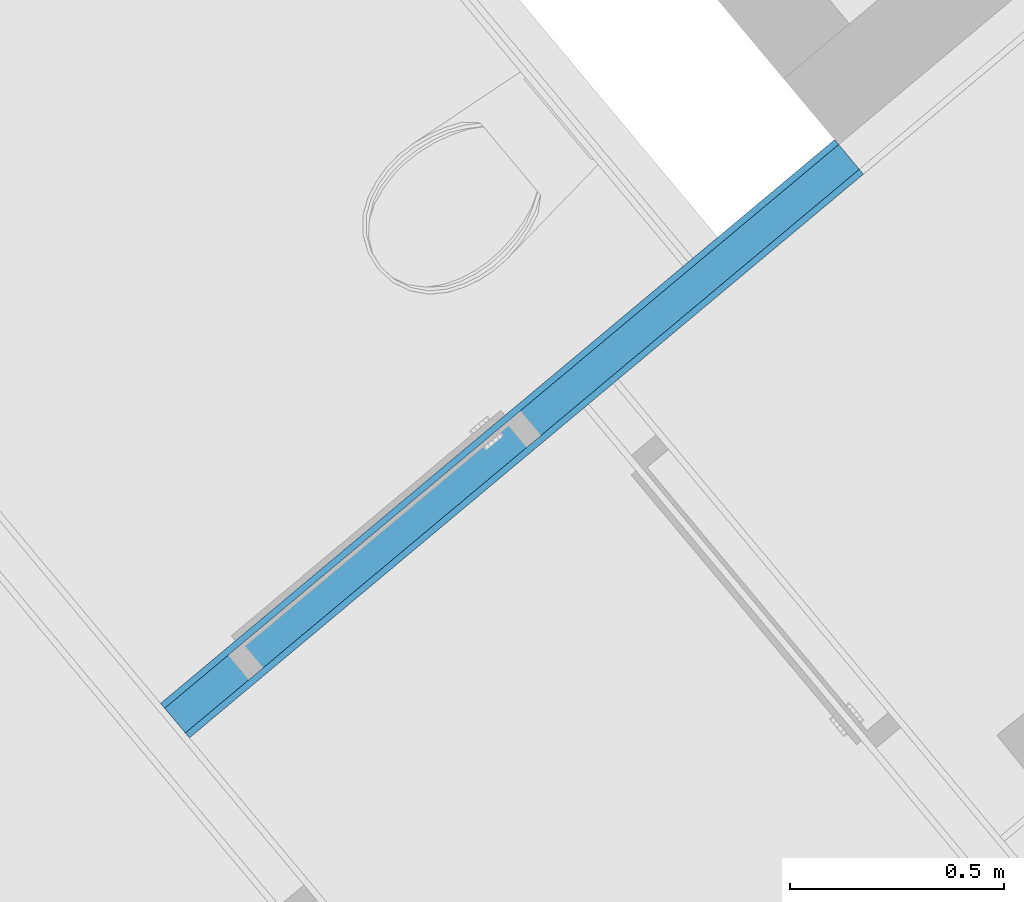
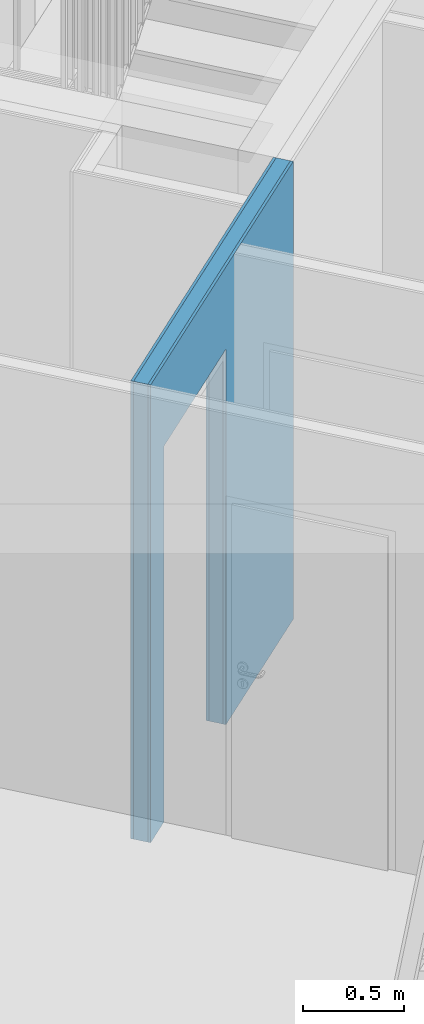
# One storey, part 3 of 75: 3 building element parts, 1 opening, 1 element without a shape of its own.
"""IFC4 building model written with IfcOpenShell, lengths in metres."""

from ifc_helpers import new_model, entity, si_unit, converted_unit, derived_unit, direction, frame, origin_with_axes, place, context, subcontext, project, spatial, polygons, material, type_object, element, aggregate, save


model = new_model("IFC4")

# Units and contexts
model_context = context("Model", 3, precision=1e-05, world=origin_with_axes(), true_north=direction((0.0, 1.0)))
body_context = subcontext(model_context, "Body", "Model", "MODEL_VIEW")
ifc_project = project(units=[si_unit("LENGTHUNIT", "METRE"), si_unit("AREAUNIT", "SQUARE_METRE"), si_unit("VOLUMEUNIT", "CUBIC_METRE"), converted_unit("PLANEANGLEUNIT", "DEGREE", entity("IfcPlaneAngleMeasure", 0.0174532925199), si_unit("PLANEANGLEUNIT", "RADIAN"), dimensions=[0, 0, 0, 0, 0, 0, 0]), converted_unit("TIMEUNIT", "Year", entity("IfcTimeMeasure", 31556926.0), si_unit("TIMEUNIT", "SECOND"), dimensions=[0, 0, 1, 0, 0, 0, 0]), si_unit("MASSUNIT", "GRAM", prefix="KILO"), si_unit("THERMODYNAMICTEMPERATUREUNIT", "DEGREE_CELSIUS"), si_unit("LUMINOUSINTENSITYUNIT", "LUMEN"), si_unit("ENERGYUNIT", "JOULE", prefix="MEGA"), derived_unit("THERMALCONDUCTANCEUNIT", [(si_unit("POWERUNIT", "WATT"), 1), (si_unit("LENGTHUNIT", "METRE"), -1), (si_unit("THERMODYNAMICTEMPERATUREUNIT", "KELVIN"), -1)]), derived_unit("SPECIFICHEATCAPACITYUNIT", [(si_unit("ENERGYUNIT", "JOULE"), 1), (si_unit("MASSUNIT", "GRAM", prefix="KILO"), -1), (si_unit("THERMODYNAMICTEMPERATUREUNIT", "KELVIN"), -1)]), derived_unit("MASSDENSITYUNIT", [(si_unit("MASSUNIT", "GRAM", prefix="KILO"), 1), (si_unit("VOLUMEUNIT", "CUBIC_METRE"), -1)])], contexts=[model_context])

# Site, building, storey
site_placement = place(None, frame((-0.00153261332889, -0.00661245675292, 0.0), z_axis=(0.0, 0.0, 1.0), x_axis=(1.0, 0.0, 0.0)))
site = spatial("IfcSite", under=ifc_project, at=site_placement, Name="Gelände", CompositionType="ELEMENT")
building_placement = place(site_placement, origin_with_axes())
building = spatial("IfcBuilding", under=site, at=building_placement, Name="Gebäude", CompositionType="ELEMENT")
storey_placement = place(building_placement, frame((0.0, 0.0, -0.22), z_axis=(0.0, 0.0, 1.0), x_axis=(1.0, 0.0, 0.0)))
storey = spatial("IfcBuildingStorey", under=building, at=storey_placement, Name="EG", CompositionType="ELEMENT", Elevation=-0.22)

# Wall, opening, building element parts
wall_type = type_object("IfcWallType", Name="IW LB 01 Leichtbautrennwand einfach 10,5 cm 105", PredefinedType="NOTDEFINED")
wall_placement = place(storey_placement, frame((-3.8779013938, 18.9137265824, 0.0), z_axis=(0.0, 0.0, 1.0), x_axis=(0.767062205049, 0.641572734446, 0.0)))
wall = element("IfcWall", 1, at=wall_placement, inside=storey, type_object=wall_type, Name="Wand-012", PredefinedType="NOTDEFINED")
opening_placement = place(wall_placement, frame((0.742573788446, 0.0, 0.22), z_axis=(0.0, 0.0, 1.0), x_axis=(1.0, 0.0, 0.0)))
element("IfcOpeningElement", 2, at=opening_placement, cuts=wall, Name="Tür-016", context=body_context, identifier="Reference", shape_type="Tessellation", body=[
    polygons([(-0.445, -1.16650854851, 2.045), (-0.445, -1.16650854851, -0.22), (0.445, -1.16650854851, -0.22), (0.445, -1.16650854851, 2.045), (-0.445, 1.06150854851, 2.045), (-0.445, 1.06150854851, -0.22), (0.445, 1.06150854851, -0.22), (0.445, 1.06150854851, 2.045)], [[[1, 2, 3, 4]], [[5, 6, 2, 1]], [[6, 7, 3, 2]], [[7, 8, 4, 3]], [[8, 5, 1, 4]], [[7, 6, 5, 8]]], closed=True),
])
ifc_material_1 = material(Name="Gipskarton")
building_element_part_1_placement = place(wall_placement, origin_with_axes())
building_element_part_1 = element("IfcBuildingElementPart", 3, at=building_element_part_1_placement, material=ifc_material_1, Name="Gipskarton", PredefinedType="NOTDEFINED", context=body_context, shape_type="Tessellation", body=[
    polygons([(0.297573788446, -0.015, 0.22), (0.297573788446, -0.015, 2.265), (1.18757378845, -0.015, 2.265), (1.18757378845, -0.015, 0.22), (1.18757378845, -0.015, 0.0), (2.15495244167, -0.015, 0.0), (2.15495244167, -0.015, 2.76), (0.104992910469, -0.015, 2.76), (0.104992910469, -0.015, 0.0), (0.297573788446, -0.015, 0.0), (0.297573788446, 3.45460549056e-09, 0.22), (0.297573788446, -8.58950244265e-10, 2.265), (1.18757378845, -8.58953796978e-10, 2.265), (1.18757378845, -8.58946691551e-10, 0.22), (1.18757378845, -8.58950244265e-10, 0.0), (2.15495244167, 0.0, 0.0), (2.15495244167, 0.0, 2.76), (1.79937701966, 1.96622167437e-08, 2.76), (0.105000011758, 0.0, 2.76), (0.105000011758, 0.0, 0.0), (0.297573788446, 3.45460549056e-09, 0.0)], [[[1, 2, 3, 4, 5, 6, 7, 8, 9, 10]], [[2, 1, 11, 12]], [[3, 2, 12, 13]], [[4, 3, 13, 14]], [[4, 14, 15, 5]], [[15, 16, 6, 5]], [[17, 7, 6, 16]], [[7, 17, 18, 19, 8]], [[19, 20, 9, 8]], [[10, 9, 20, 21]], [[11, 1, 10, 21]], [[12, 11, 21, 20, 19, 18, 17, 16, 15, 14, 13]]], closed=True),
])
ifc_material_2 = material(Name="Mineralwolle weich")
building_element_part_2_placement = place(wall_placement, origin_with_axes())
building_element_part_2 = element("IfcBuildingElementPart", 4, at=building_element_part_2_placement, material=ifc_material_2, Name="Mineralwolle weich", PredefinedType="NOTDEFINED", context=body_context, shape_type="Tessellation", body=[
    polygons([(0.297573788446, -0.09, 0.22), (0.297573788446, -0.09, 2.265), (1.18757378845, -0.09, 2.265), (1.18757378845, -0.09, 0.22), (1.18757378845, -0.09, 0.0), (2.15495244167, -0.09, 0.0), (2.15495244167, -0.09, 2.76), (0.104957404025, -0.09, 2.76), (0.104957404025, -0.09, 0.0), (0.297573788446, -0.09, 0.0), (0.297573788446, -0.015, 0.22), (0.297573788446, -0.015, 2.265), (1.18757378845, -0.015, 2.265), (1.18757378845, -0.015, 0.22), (1.18757378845, -0.015, 0.0), (2.15495244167, -0.015, 0.0), (2.15494534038, -0.0149999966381, 2.76), (0.104992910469, -0.015, 2.76), (0.104992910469, -0.015, 0.0), (0.297573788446, -0.015, 0.0)], [[[1, 2, 3, 4, 5, 6, 7, 8, 9, 10]], [[2, 1, 11, 12]], [[3, 2, 12, 13]], [[4, 3, 13, 14]], [[4, 14, 15, 5]], [[15, 16, 6, 5]], [[7, 6, 16, 17]], [[18, 8, 7, 17]], [[18, 19, 9, 8]], [[10, 9, 19, 20]], [[11, 1, 10, 20]], [[12, 11, 20, 19, 18, 17, 16, 15, 14, 13]]], closed=True),
])
building_element_part_3_placement = place(wall_placement, origin_with_axes())
building_element_part_3 = element("IfcBuildingElementPart", 5, at=building_element_part_3_placement, material=ifc_material_1, Name="Gipskarton", PredefinedType="NOTDEFINED", context=body_context, shape_type="Tessellation", body=[
    polygons([(0.297573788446, -0.105, 0.22), (0.297573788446, -0.105, 2.265), (1.18757378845, -0.105, 2.265), (1.18757378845, -0.105, 0.22), (1.18757378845, -0.105, 0.0), (2.15495244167, -0.105, 0.0), (2.15495244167, -0.105, 2.76), (0.104950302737, -0.105, 2.76), (0.104950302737, -0.105, 0.0), (0.297573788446, -0.105, 0.0), (0.297573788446, -0.09, 0.22), (0.297573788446, -0.09, 2.265), (1.18757378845, -0.09, 2.265), (1.18757378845, -0.09, 0.22), (1.18757378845, -0.09, 0.0), (2.15495244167, -0.09, 0.0), (2.15495244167, -0.09, 2.76), (0.104957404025, -0.09, 2.76), (0.104957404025, -0.09, 0.0), (0.297573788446, -0.09, 0.0)], [[[1, 2, 3, 4, 5, 6, 7, 8, 9, 10]], [[2, 1, 11, 12]], [[3, 2, 12, 13]], [[4, 3, 13, 14]], [[4, 14, 15, 5]], [[15, 16, 6, 5]], [[7, 6, 16, 17]], [[18, 8, 7, 17]], [[18, 19, 9, 8]], [[10, 9, 19, 20]], [[11, 1, 10, 20]], [[12, 11, 20, 19, 18, 17, 16, 15, 14, 13]]], closed=True),
])
aggregate(wall, [building_element_part_1, building_element_part_2, building_element_part_3])

save(model, "model.ifc")
